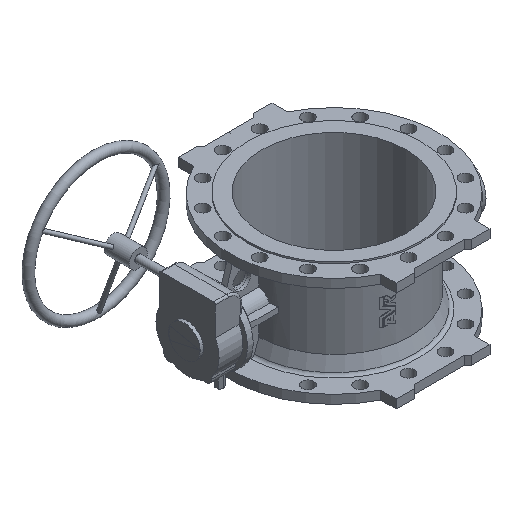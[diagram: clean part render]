
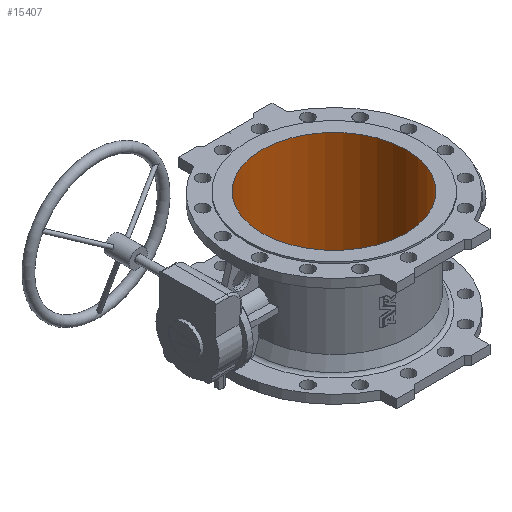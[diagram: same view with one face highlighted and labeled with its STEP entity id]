
A CAD part, isometric view. The second image highlights one B-rep face of the part: STEP entity #15407.
In plain terms, the highlighted cylindrical face has radius 200 mm (diameter 400 mm), a full revolution.
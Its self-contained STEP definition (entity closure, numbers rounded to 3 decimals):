
#1202 = CARTESIAN_POINT ( 'NONE',  ( -200., -3., 155. ) ) ;
#1207 = CARTESIAN_POINT ( 'NONE',  ( -200., -3., -155. ) ) ;
#2682 = EDGE_CURVE ( 'NONE', #7799, #7799, #10613, .T. ) ;
#2693 = EDGE_CURVE ( 'NONE', #7807, #7807, #10650, .T. ) ;
#3738 = DIRECTION ( 'NONE',  ( -1., 0., 0. ) ) ;
#3739 = DIRECTION ( 'NONE',  ( 0., 0., 1. ) ) ;
#3740 = CARTESIAN_POINT ( 'NONE',  ( 0., -3., -155. ) ) ;
#3773 = DIRECTION ( 'NONE',  ( -1., 0., 0. ) ) ;
#3774 = DIRECTION ( 'NONE',  ( 0., 0., 1. ) ) ;
#3775 = CARTESIAN_POINT ( 'NONE',  ( 0., -3., 155. ) ) ;
#4349 = AXIS2_PLACEMENT_3D ( 'NONE', #9795, #9796, #9794 ) ;
#5617 = EDGE_LOOP ( 'NONE', ( #10290 ) ) ;
#5619 = EDGE_LOOP ( 'NONE', ( #10291 ) ) ;
#7051 = FACE_OUTER_BOUND ( 'NONE', #5617, .T. ) ;
#7056 = FACE_OUTER_BOUND ( 'NONE', #5619, .T. ) ;
#7058 = CYLINDRICAL_SURFACE ( 'NONE', #4349, 200. ) ;
#7799 = VERTEX_POINT ( 'NONE', #1202 ) ;
#7807 = VERTEX_POINT ( 'NONE', #1207 ) ;
#9794 = DIRECTION ( 'NONE',  ( -1., 0., 0. ) ) ;
#9795 = CARTESIAN_POINT ( 'NONE',  ( 0., -3., 133.661 ) ) ;
#9796 = DIRECTION ( 'NONE',  ( 0., 0., 1. ) ) ;
#10290 = ORIENTED_EDGE ( 'NONE', *, *, #2693, .F. ) ;
#10291 = ORIENTED_EDGE ( 'NONE', *, *, #2682, .T. ) ;
#10613 = CIRCLE ( 'NONE', #11061, 200. ) ;
#10650 = CIRCLE ( 'NONE', #11056, 200. ) ;
#11056 = AXIS2_PLACEMENT_3D ( 'NONE', #3740, #3739, #3738 ) ;
#11061 = AXIS2_PLACEMENT_3D ( 'NONE', #3775, #3774, #3773 ) ;
#15407 = ADVANCED_FACE ( 'NONE', ( #7051, #7056 ), #7058, .F. ) ;
